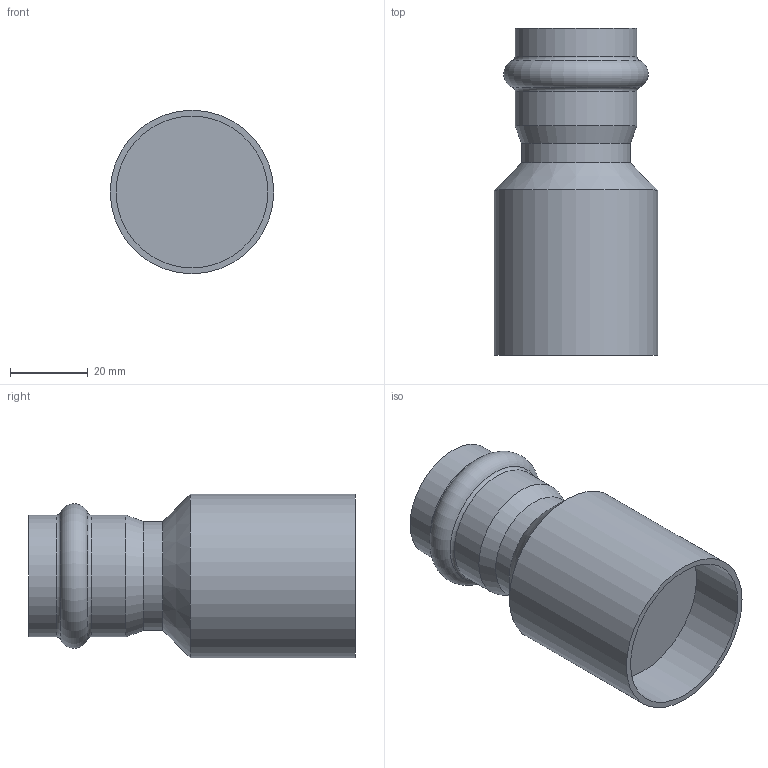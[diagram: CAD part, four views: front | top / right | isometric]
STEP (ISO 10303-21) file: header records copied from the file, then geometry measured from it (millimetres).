
FILE_DESCRIPTION(('STEP AP203'), '1');
FILE_NAME('VTi.905.I.004228', '', ('UNSPECIFIED'), ('UNSPECIFIED'), 'C3D Converter', 'C3D Toolkit', '');
FILE_SCHEMA(('CONFIG_CONTROL_DESIGN'));
Length unit declared in the file: millimetre
Bounding box: 42 x 84 x 42 mm (x, y, z)
Volume: 70295.8 mm3; surface area: 15029.8 mm2
Topology: 1 solids, 1 shells, 15 faces, 26 edges, 15 vertices
Faces by surface type: cylinder 6, plane 4, torus 3, cone 2
Full cylindrical faces by diameter (mm): 28 x1, 28.3 x1, 31.26 x2, 39 x1, 42 x1
Entity records: 344 total; most frequent: DIRECTION 62, CARTESIAN_POINT 46, AXIS2_PLACEMENT_3D 31, ORIENTED_EDGE 30, EDGE_LOOP 28, FACE_OUTER_BOUND 20, ADVANCED_FACE 15, EDGE_CURVE 15
